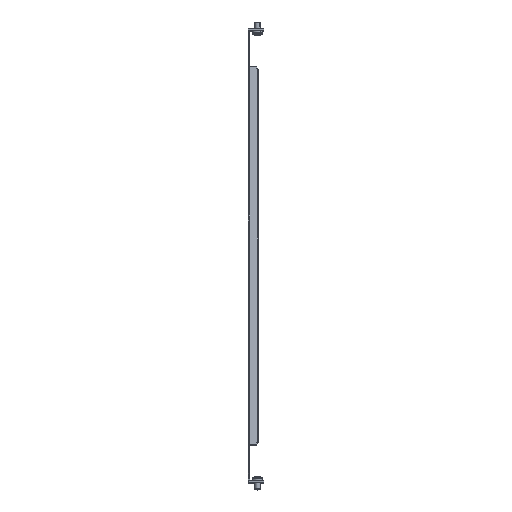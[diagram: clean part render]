
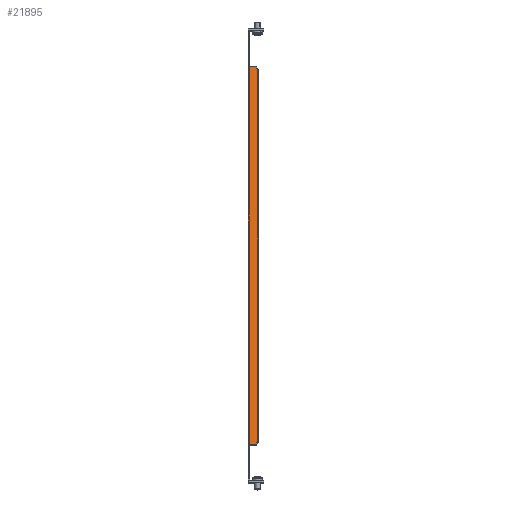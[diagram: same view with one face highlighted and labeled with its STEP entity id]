
A CAD part, top view. The second image highlights one B-rep face of the part: STEP entity #21895.
In plain terms, the highlighted planar face has unit normal (0.5, 0, 0.866).
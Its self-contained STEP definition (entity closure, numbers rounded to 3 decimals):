
#375 = FACE_OUTER_BOUND ( 'NONE', #10759, .T. ) ;
#479 = ORIENTED_EDGE ( 'NONE', *, *, #11813, .F. ) ;
#959 = DIRECTION ( 'NONE',  ( -0.612, 0.707, 0.354 ) ) ;
#1336 = EDGE_CURVE ( 'NONE', #13282, #9963, #11174, .T. ) ;
#1517 = CARTESIAN_POINT ( 'NONE',  ( 8.803, -210.75, 295.114 ) ) ;
#2315 = EDGE_CURVE ( 'NONE', #23856, #3370, #20581, .T. ) ;
#2509 = PLANE ( 'NONE',  #22765 ) ;
#2547 = VERTEX_POINT ( 'NONE', #3849 ) ;
#3370 = VERTEX_POINT ( 'NONE', #27932 ) ;
#3663 = VECTOR ( 'NONE', #16709, 1000. ) ;
#3849 = CARTESIAN_POINT ( 'NONE',  ( 8.803, 210.75, 295.114 ) ) ;
#4119 = DIRECTION ( 'NONE',  ( 0., -1., 0. ) ) ;
#4529 = VERTEX_POINT ( 'NONE', #5009 ) ;
#4963 = VERTEX_POINT ( 'NONE', #28052 ) ;
#5009 = CARTESIAN_POINT ( 'NONE',  ( 4.5, -210.75, 297.598 ) ) ;
#5497 = CARTESIAN_POINT ( 'NONE',  ( 11.401, -207.75, 293.614 ) ) ;
#5814 = VECTOR ( 'NONE', #9182, 1000. ) ;
#6405 = LINE ( 'NONE', #15658, #28988 ) ;
#6449 = EDGE_CURVE ( 'NONE', #13282, #4529, #18925, .T. ) ;
#7749 = ORIENTED_EDGE ( 'NONE', *, *, #6449, .F. ) ;
#7994 = VECTOR ( 'NONE', #27955, 1000. ) ;
#8090 = LINE ( 'NONE', #13125, #22703 ) ;
#9152 = ORIENTED_EDGE ( 'NONE', *, *, #26674, .T. ) ;
#9182 = DIRECTION ( 'NONE',  ( 0.612, 0.707, -0.354 ) ) ;
#9645 = DIRECTION ( 'NONE',  ( 0.866, 0., -0.5 ) ) ;
#9963 = VERTEX_POINT ( 'NONE', #5497 ) ;
#10034 = CARTESIAN_POINT ( 'NONE',  ( 11.401, 210.75, 293.614 ) ) ;
#10759 = EDGE_LOOP ( 'NONE', ( #7749, #17261, #479, #14488, #24885, #9152, #22322, #29929 ) ) ;
#10864 = LINE ( 'NONE', #13594, #27566 ) ;
#11174 = LINE ( 'NONE', #22688, #5814 ) ;
#11215 = VECTOR ( 'NONE', #11340, 1000. ) ;
#11340 = DIRECTION ( 'NONE',  ( 0., -1., 0. ) ) ;
#11813 = EDGE_CURVE ( 'NONE', #12239, #9963, #6405, .T. ) ;
#12239 = VERTEX_POINT ( 'NONE', #14097 ) ;
#13125 = CARTESIAN_POINT ( 'NONE',  ( 8.803, 210.75, 295.114 ) ) ;
#13282 = VERTEX_POINT ( 'NONE', #1517 ) ;
#13594 = CARTESIAN_POINT ( 'NONE',  ( 4.5, 210.75, 297.598 ) ) ;
#14097 = CARTESIAN_POINT ( 'NONE',  ( 11.401, 207.75, 293.614 ) ) ;
#14151 = LINE ( 'NONE', #26307, #3663 ) ;
#14488 = ORIENTED_EDGE ( 'NONE', *, *, #29420, .T. ) ;
#14512 = CARTESIAN_POINT ( 'NONE',  ( 2.25, -210.75, 298.897 ) ) ;
#14583 = LINE ( 'NONE', #10034, #7994 ) ;
#15658 = CARTESIAN_POINT ( 'NONE',  ( 11.401, -210.75, 293.614 ) ) ;
#15959 = CARTESIAN_POINT ( 'NONE',  ( 0., 210.75, 300.196 ) ) ;
#16709 = DIRECTION ( 'NONE',  ( -0.866, 0., 0.5 ) ) ;
#16981 = EDGE_CURVE ( 'NONE', #4963, #2547, #14583, .T. ) ;
#17261 = ORIENTED_EDGE ( 'NONE', *, *, #1336, .T. ) ;
#17753 = EDGE_CURVE ( 'NONE', #4529, #3370, #14151, .T. ) ;
#18925 = LINE ( 'NONE', #14512, #28728 ) ;
#20581 = LINE ( 'NONE', #25588, #11215 ) ;
#20907 = DIRECTION ( 'NONE',  ( -0.866, 0., 0.5 ) ) ;
#21895 = ADVANCED_FACE ( 'NONE', ( #375 ), #2509, .F. ) ;
#22322 = ORIENTED_EDGE ( 'NONE', *, *, #2315, .T. ) ;
#22688 = CARTESIAN_POINT ( 'NONE',  ( 11.401, -207.75, 293.614 ) ) ;
#22703 = VECTOR ( 'NONE', #959, 1000. ) ;
#22765 = AXIS2_PLACEMENT_3D ( 'NONE', #23768, #28322, #9645 ) ;
#23768 = CARTESIAN_POINT ( 'NONE',  ( 128.864, 0., 225.797 ) ) ;
#23856 = VERTEX_POINT ( 'NONE', #15959 ) ;
#24885 = ORIENTED_EDGE ( 'NONE', *, *, #16981, .F. ) ;
#25588 = CARTESIAN_POINT ( 'NONE',  ( 0., 0., 300.196 ) ) ;
#26307 = CARTESIAN_POINT ( 'NONE',  ( 128.864, -210.75, 225.797 ) ) ;
#26674 = EDGE_CURVE ( 'NONE', #4963, #23856, #10864, .T. ) ;
#27566 = VECTOR ( 'NONE', #29530, 1000. ) ;
#27932 = CARTESIAN_POINT ( 'NONE',  ( 0., -210.75, 300.196 ) ) ;
#27955 = DIRECTION ( 'NONE',  ( 0.866, 0., -0.5 ) ) ;
#28052 = CARTESIAN_POINT ( 'NONE',  ( 4.5, 210.75, 297.598 ) ) ;
#28322 = DIRECTION ( 'NONE',  ( -0.5, 0., -0.866 ) ) ;
#28728 = VECTOR ( 'NONE', #20907, 1000. ) ;
#28988 = VECTOR ( 'NONE', #4119, 1000. ) ;
#29420 = EDGE_CURVE ( 'NONE', #12239, #2547, #8090, .T. ) ;
#29530 = DIRECTION ( 'NONE',  ( -0.866, 0., 0.5 ) ) ;
#29929 = ORIENTED_EDGE ( 'NONE', *, *, #17753, .F. ) ;
